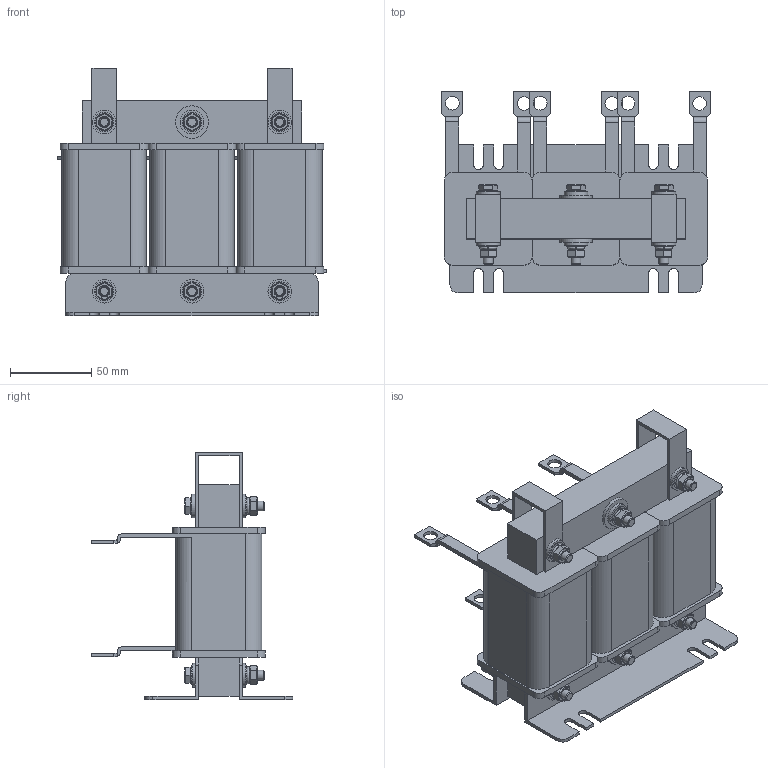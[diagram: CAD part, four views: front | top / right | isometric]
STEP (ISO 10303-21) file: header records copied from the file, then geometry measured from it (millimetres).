
FILE_DESCRIPTION(('STEP AP203'), '1');
FILE_NAME('栖闉罻 _ IMF-18.5_37-4', '', ('UNSPECIFIED'), ('UNSPECIFIED'), 'ASCON STEP Converter 1.6', 'ASCON Math Kernel', '');
FILE_SCHEMA(('CONFIG_CONTROL_DESIGN'));
Length unit declared in the file: millimetre
Products named in the file (13): IMF-18.5_37-4
Assembly tree (59 placements, depth 2):
  IMF-18.5_37-4
    IMF-18.5_37-4
    IMF-18.5_37-4  x2
    IMF-18.5_37-4  x6
    IMF-18.5_37-4  x3
    IMF-18.5_37-4
    IMF-18.5_37-4  x2
    IMF-18.5_37-4  x2
    IMF-18.5_37-4  x12
    IMF-18.5_37-4  x12
    IMF-18.5_37-4  x6
    IMF-18.5_37-4  x6
    IMF-18.5_37-4  x6
Bounding box: 165 x 124 x 152 mm (x, y, z)
Volume: 878373.7 mm3; surface area: 201667.7 mm2
Topology: 59 solids, 59 shells, 706 faces, 1584 edges, 1002 vertices
Faces by surface type: plane 514, cylinder 162, cone 18, torus 12
Full cylindrical faces by diameter (mm): 6 x54, 8.4 x6, 12 x12, 14.6 x12, 20 x2
Entity records: 7237 total; most frequent: CARTESIAN_POINT 1199, DIRECTION 970, ORIENTED_EDGE 810, EDGE_CURVE 405, AXIS2_PLACEMENT_3D 336, LINE 298, VECTOR 298, VERTEX_POINT 277
